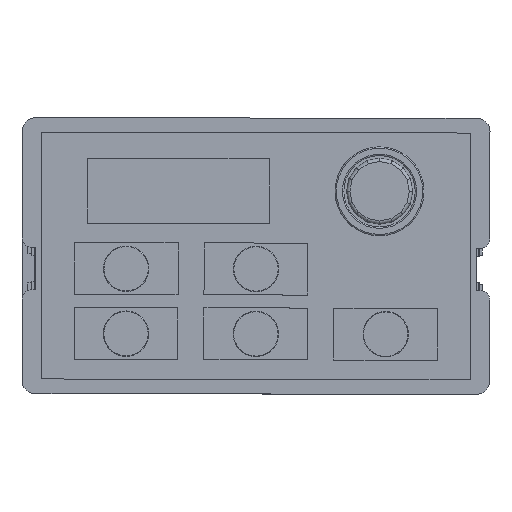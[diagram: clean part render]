
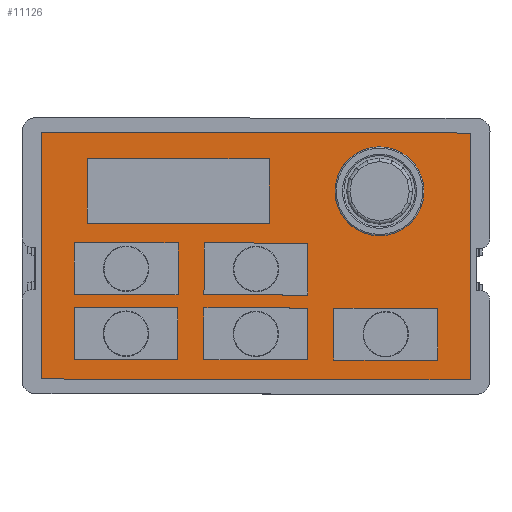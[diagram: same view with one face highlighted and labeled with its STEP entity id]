
A CAD part, top view. The second image highlights one B-rep face of the part: STEP entity #11126.
In plain terms, the highlighted planar face has unit normal (0.002, 0, 1) as drawn and (0, 0, -1) by its records, which use the part's own axes.
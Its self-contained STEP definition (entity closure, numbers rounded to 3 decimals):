
#9809 = VERTEX_POINT('',#9810);
#9810 = CARTESIAN_POINT('',(1.1,39.75,-1.55));
#9816 = EDGE_CURVE('',#9809,#9817,#9819,.T.);
#9817 = VERTEX_POINT('',#9818);
#9818 = CARTESIAN_POINT('',(1.1,1.75,-1.55));
#9819 = LINE('',#9820,#9821);
#9820 = CARTESIAN_POINT('',(1.1,39.75,-1.55));
#9821 = VECTOR('',#9822,1.);
#9822 = DIRECTION('',(0.,-1.,0.));
#9840 = VERTEX_POINT('',#9841);
#9841 = CARTESIAN_POINT('',(67.1,39.75,-1.55));
#9847 = EDGE_CURVE('',#9840,#9809,#9848,.T.);
#9848 = LINE('',#9849,#9850);
#9849 = CARTESIAN_POINT('',(67.1,39.75,-1.55));
#9850 = VECTOR('',#9851,1.);
#9851 = DIRECTION('',(-1.,0.,0.));
#9864 = VERTEX_POINT('',#9865);
#9865 = CARTESIAN_POINT('',(67.1,1.75,-1.55));
#9871 = EDGE_CURVE('',#9864,#9840,#9872,.T.);
#9872 = LINE('',#9873,#9874);
#9873 = CARTESIAN_POINT('',(67.1,1.75,-1.55));
#9874 = VECTOR('',#9875,1.);
#9875 = DIRECTION('',(0.,1.,0.));
#9888 = EDGE_CURVE('',#9817,#9864,#9889,.T.);
#9889 = LINE('',#9890,#9891);
#9890 = CARTESIAN_POINT('',(1.1,1.75,-1.55));
#9891 = VECTOR('',#9892,1.);
#9892 = DIRECTION('',(1.,0.,0.));
#11126 = ADVANCED_FACE('',(#11127,#11133,#11167,#11201,#11235,#11269,
    #11303,#11314),#11348,.F.);
#11127 = FACE_BOUND('',#11128,.F.);
#11128 = EDGE_LOOP('',(#11129,#11130,#11131,#11132));
#11129 = ORIENTED_EDGE('',*,*,#9888,.T.);
#11130 = ORIENTED_EDGE('',*,*,#9871,.T.);
#11131 = ORIENTED_EDGE('',*,*,#9847,.T.);
#11132 = ORIENTED_EDGE('',*,*,#9816,.T.);
#11133 = FACE_BOUND('',#11134,.F.);
#11134 = EDGE_LOOP('',(#11135,#11145,#11153,#11161));
#11135 = ORIENTED_EDGE('',*,*,#11136,.T.);
#11136 = EDGE_CURVE('',#11137,#11139,#11141,.T.);
#11137 = VERTEX_POINT('',#11138);
#11138 = CARTESIAN_POINT('',(46.1,28.75,-1.55));
#11139 = VERTEX_POINT('',#11140);
#11140 = CARTESIAN_POINT('',(46.1,36.75,-1.55));
#11141 = LINE('',#11142,#11143);
#11142 = CARTESIAN_POINT('',(46.1,28.75,-1.55));
#11143 = VECTOR('',#11144,1.);
#11144 = DIRECTION('',(0.,1.,0.));
#11145 = ORIENTED_EDGE('',*,*,#11146,.T.);
#11146 = EDGE_CURVE('',#11139,#11147,#11149,.T.);
#11147 = VERTEX_POINT('',#11148);
#11148 = CARTESIAN_POINT('',(62.1,36.75,-1.55));
#11149 = LINE('',#11150,#11151);
#11150 = CARTESIAN_POINT('',(46.1,36.75,-1.55));
#11151 = VECTOR('',#11152,1.);
#11152 = DIRECTION('',(1.,0.,0.));
#11153 = ORIENTED_EDGE('',*,*,#11154,.T.);
#11154 = EDGE_CURVE('',#11147,#11155,#11157,.T.);
#11155 = VERTEX_POINT('',#11156);
#11156 = CARTESIAN_POINT('',(62.1,28.75,-1.55));
#11157 = LINE('',#11158,#11159);
#11158 = CARTESIAN_POINT('',(62.1,36.75,-1.55));
#11159 = VECTOR('',#11160,1.);
#11160 = DIRECTION('',(0.,-1.,0.));
#11161 = ORIENTED_EDGE('',*,*,#11162,.T.);
#11162 = EDGE_CURVE('',#11155,#11137,#11163,.T.);
#11163 = LINE('',#11164,#11165);
#11164 = CARTESIAN_POINT('',(62.1,28.75,-1.55));
#11165 = VECTOR('',#11166,1.);
#11166 = DIRECTION('',(-1.,0.,0.));
#11167 = FACE_BOUND('',#11168,.F.);
#11168 = EDGE_LOOP('',(#11169,#11179,#11187,#11195));
#11169 = ORIENTED_EDGE('',*,*,#11170,.F.);
#11170 = EDGE_CURVE('',#11171,#11173,#11175,.T.);
#11171 = VERTEX_POINT('',#11172);
#11172 = CARTESIAN_POINT('',(26.1,28.75,-1.55));
#11173 = VERTEX_POINT('',#11174);
#11174 = CARTESIAN_POINT('',(42.1,28.75,-1.55));
#11175 = LINE('',#11176,#11177);
#11176 = CARTESIAN_POINT('',(26.1,28.75,-1.55));
#11177 = VECTOR('',#11178,1.);
#11178 = DIRECTION('',(1.,0.,0.));
#11179 = ORIENTED_EDGE('',*,*,#11180,.F.);
#11180 = EDGE_CURVE('',#11181,#11171,#11183,.T.);
#11181 = VERTEX_POINT('',#11182);
#11182 = CARTESIAN_POINT('',(26.1,36.75,-1.55));
#11183 = LINE('',#11184,#11185);
#11184 = CARTESIAN_POINT('',(26.1,36.75,-1.55));
#11185 = VECTOR('',#11186,1.);
#11186 = DIRECTION('',(0.,-1.,0.));
#11187 = ORIENTED_EDGE('',*,*,#11188,.F.);
#11188 = EDGE_CURVE('',#11189,#11181,#11191,.T.);
#11189 = VERTEX_POINT('',#11190);
#11190 = CARTESIAN_POINT('',(42.1,36.75,-1.55));
#11191 = LINE('',#11192,#11193);
#11192 = CARTESIAN_POINT('',(42.1,36.75,-1.55));
#11193 = VECTOR('',#11194,1.);
#11194 = DIRECTION('',(-1.,0.,0.));
#11195 = ORIENTED_EDGE('',*,*,#11196,.F.);
#11196 = EDGE_CURVE('',#11173,#11189,#11197,.T.);
#11197 = LINE('',#11198,#11199);
#11198 = CARTESIAN_POINT('',(42.1,28.75,-1.55));
#11199 = VECTOR('',#11200,1.);
#11200 = DIRECTION('',(0.,1.,0.));
#11201 = FACE_BOUND('',#11202,.F.);
#11202 = EDGE_LOOP('',(#11203,#11213,#11221,#11229));
#11203 = ORIENTED_EDGE('',*,*,#11204,.T.);
#11204 = EDGE_CURVE('',#11205,#11207,#11209,.T.);
#11205 = VERTEX_POINT('',#11206);
#11206 = CARTESIAN_POINT('',(6.1,28.75,-1.55));
#11207 = VERTEX_POINT('',#11208);
#11208 = CARTESIAN_POINT('',(6.1,36.75,-1.55));
#11209 = LINE('',#11210,#11211);
#11210 = CARTESIAN_POINT('',(6.1,28.75,-1.55));
#11211 = VECTOR('',#11212,1.);
#11212 = DIRECTION('',(0.,1.,0.));
#11213 = ORIENTED_EDGE('',*,*,#11214,.T.);
#11214 = EDGE_CURVE('',#11207,#11215,#11217,.T.);
#11215 = VERTEX_POINT('',#11216);
#11216 = CARTESIAN_POINT('',(22.1,36.75,-1.55));
#11217 = LINE('',#11218,#11219);
#11218 = CARTESIAN_POINT('',(6.1,36.75,-1.55));
#11219 = VECTOR('',#11220,1.);
#11220 = DIRECTION('',(1.,0.,0.));
#11221 = ORIENTED_EDGE('',*,*,#11222,.T.);
#11222 = EDGE_CURVE('',#11215,#11223,#11225,.T.);
#11223 = VERTEX_POINT('',#11224);
#11224 = CARTESIAN_POINT('',(22.1,28.75,-1.55));
#11225 = LINE('',#11226,#11227);
#11226 = CARTESIAN_POINT('',(22.1,36.75,-1.55));
#11227 = VECTOR('',#11228,1.);
#11228 = DIRECTION('',(0.,-1.,0.));
#11229 = ORIENTED_EDGE('',*,*,#11230,.T.);
#11230 = EDGE_CURVE('',#11223,#11205,#11231,.T.);
#11231 = LINE('',#11232,#11233);
#11232 = CARTESIAN_POINT('',(22.1,28.75,-1.55));
#11233 = VECTOR('',#11234,1.);
#11234 = DIRECTION('',(-1.,0.,0.));
#11235 = FACE_BOUND('',#11236,.F.);
#11236 = EDGE_LOOP('',(#11237,#11247,#11255,#11263));
#11237 = ORIENTED_EDGE('',*,*,#11238,.F.);
#11238 = EDGE_CURVE('',#11239,#11241,#11243,.T.);
#11239 = VERTEX_POINT('',#11240);
#11240 = CARTESIAN_POINT('',(26.1,18.75,-1.55));
#11241 = VERTEX_POINT('',#11242);
#11242 = CARTESIAN_POINT('',(42.1,18.75,-1.55));
#11243 = LINE('',#11244,#11245);
#11244 = CARTESIAN_POINT('',(26.1,18.75,-1.55));
#11245 = VECTOR('',#11246,1.);
#11246 = DIRECTION('',(1.,0.,0.));
#11247 = ORIENTED_EDGE('',*,*,#11248,.F.);
#11248 = EDGE_CURVE('',#11249,#11239,#11251,.T.);
#11249 = VERTEX_POINT('',#11250);
#11250 = CARTESIAN_POINT('',(26.1,26.75,-1.55));
#11251 = LINE('',#11252,#11253);
#11252 = CARTESIAN_POINT('',(26.1,26.75,-1.55));
#11253 = VECTOR('',#11254,1.);
#11254 = DIRECTION('',(0.,-1.,0.));
#11255 = ORIENTED_EDGE('',*,*,#11256,.F.);
#11256 = EDGE_CURVE('',#11257,#11249,#11259,.T.);
#11257 = VERTEX_POINT('',#11258);
#11258 = CARTESIAN_POINT('',(42.1,26.75,-1.55));
#11259 = LINE('',#11260,#11261);
#11260 = CARTESIAN_POINT('',(42.1,26.75,-1.55));
#11261 = VECTOR('',#11262,1.);
#11262 = DIRECTION('',(-1.,0.,0.));
#11263 = ORIENTED_EDGE('',*,*,#11264,.F.);
#11264 = EDGE_CURVE('',#11241,#11257,#11265,.T.);
#11265 = LINE('',#11266,#11267);
#11266 = CARTESIAN_POINT('',(42.1,18.75,-1.55));
#11267 = VECTOR('',#11268,1.);
#11268 = DIRECTION('',(0.,1.,0.));
#11269 = FACE_BOUND('',#11270,.F.);
#11270 = EDGE_LOOP('',(#11271,#11281,#11289,#11297));
#11271 = ORIENTED_EDGE('',*,*,#11272,.T.);
#11272 = EDGE_CURVE('',#11273,#11275,#11277,.T.);
#11273 = VERTEX_POINT('',#11274);
#11274 = CARTESIAN_POINT('',(6.1,18.75,-1.55));
#11275 = VERTEX_POINT('',#11276);
#11276 = CARTESIAN_POINT('',(6.1,26.75,-1.55));
#11277 = LINE('',#11278,#11279);
#11278 = CARTESIAN_POINT('',(6.1,18.75,-1.55));
#11279 = VECTOR('',#11280,1.);
#11280 = DIRECTION('',(0.,1.,0.));
#11281 = ORIENTED_EDGE('',*,*,#11282,.T.);
#11282 = EDGE_CURVE('',#11275,#11283,#11285,.T.);
#11283 = VERTEX_POINT('',#11284);
#11284 = CARTESIAN_POINT('',(22.1,26.75,-1.55));
#11285 = LINE('',#11286,#11287);
#11286 = CARTESIAN_POINT('',(6.1,26.75,-1.55));
#11287 = VECTOR('',#11288,1.);
#11288 = DIRECTION('',(1.,0.,0.));
#11289 = ORIENTED_EDGE('',*,*,#11290,.T.);
#11290 = EDGE_CURVE('',#11283,#11291,#11293,.T.);
#11291 = VERTEX_POINT('',#11292);
#11292 = CARTESIAN_POINT('',(22.1,18.75,-1.55));
#11293 = LINE('',#11294,#11295);
#11294 = CARTESIAN_POINT('',(22.1,26.75,-1.55));
#11295 = VECTOR('',#11296,1.);
#11296 = DIRECTION('',(0.,-1.,0.));
#11297 = ORIENTED_EDGE('',*,*,#11298,.T.);
#11298 = EDGE_CURVE('',#11291,#11273,#11299,.T.);
#11299 = LINE('',#11300,#11301);
#11300 = CARTESIAN_POINT('',(22.1,18.75,-1.55));
#11301 = VECTOR('',#11302,1.);
#11302 = DIRECTION('',(-1.,0.,0.));
#11303 = FACE_BOUND('',#11304,.F.);
#11304 = EDGE_LOOP('',(#11305));
#11305 = ORIENTED_EDGE('',*,*,#11306,.T.);
#11306 = EDGE_CURVE('',#11307,#11307,#11309,.T.);
#11307 = VERTEX_POINT('',#11308);
#11308 = CARTESIAN_POINT('',(59.95,10.75,-1.55));
#11309 = CIRCLE('',#11310,6.85);
#11310 = AXIS2_PLACEMENT_3D('',#11311,#11312,#11313);
#11311 = CARTESIAN_POINT('',(53.1,10.75,-1.55));
#11312 = DIRECTION('',(0.,0.,-1.));
#11313 = DIRECTION('',(1.,0.,0.));
#11314 = FACE_BOUND('',#11315,.F.);
#11315 = EDGE_LOOP('',(#11316,#11326,#11334,#11342));
#11316 = ORIENTED_EDGE('',*,*,#11317,.F.);
#11317 = EDGE_CURVE('',#11318,#11320,#11322,.T.);
#11318 = VERTEX_POINT('',#11319);
#11319 = CARTESIAN_POINT('',(8.1,5.75,-1.55));
#11320 = VERTEX_POINT('',#11321);
#11321 = CARTESIAN_POINT('',(36.1,5.75,-1.55));
#11322 = LINE('',#11323,#11324);
#11323 = CARTESIAN_POINT('',(8.1,5.75,-1.55));
#11324 = VECTOR('',#11325,1.);
#11325 = DIRECTION('',(1.,0.,0.));
#11326 = ORIENTED_EDGE('',*,*,#11327,.F.);
#11327 = EDGE_CURVE('',#11328,#11318,#11330,.T.);
#11328 = VERTEX_POINT('',#11329);
#11329 = CARTESIAN_POINT('',(8.1,15.75,-1.55));
#11330 = LINE('',#11331,#11332);
#11331 = CARTESIAN_POINT('',(8.1,15.75,-1.55));
#11332 = VECTOR('',#11333,1.);
#11333 = DIRECTION('',(0.,-1.,0.));
#11334 = ORIENTED_EDGE('',*,*,#11335,.F.);
#11335 = EDGE_CURVE('',#11336,#11328,#11338,.T.);
#11336 = VERTEX_POINT('',#11337);
#11337 = CARTESIAN_POINT('',(36.1,15.75,-1.55));
#11338 = LINE('',#11339,#11340);
#11339 = CARTESIAN_POINT('',(36.1,15.75,-1.55));
#11340 = VECTOR('',#11341,1.);
#11341 = DIRECTION('',(-1.,0.,0.));
#11342 = ORIENTED_EDGE('',*,*,#11343,.F.);
#11343 = EDGE_CURVE('',#11320,#11336,#11344,.T.);
#11344 = LINE('',#11345,#11346);
#11345 = CARTESIAN_POINT('',(36.1,5.75,-1.55));
#11346 = VECTOR('',#11347,1.);
#11347 = DIRECTION('',(0.,1.,0.));
#11348 = PLANE('',#11349);
#11349 = AXIS2_PLACEMENT_3D('',#11350,#11351,#11352);
#11350 = CARTESIAN_POINT('',(34.1,20.75,-1.55));
#11351 = DIRECTION('',(-0.,0.,1.));
#11352 = DIRECTION('',(-1.,0.,0.));
